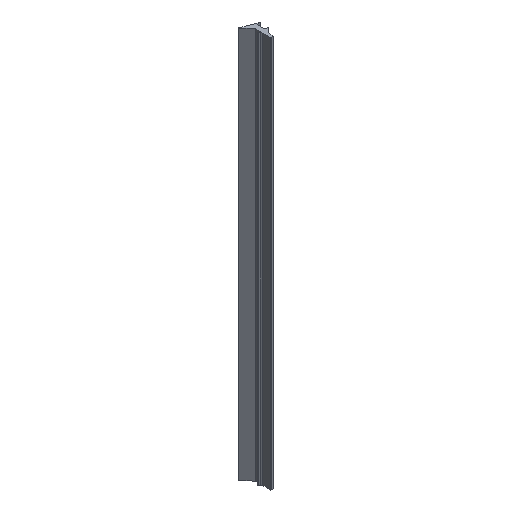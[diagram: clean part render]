
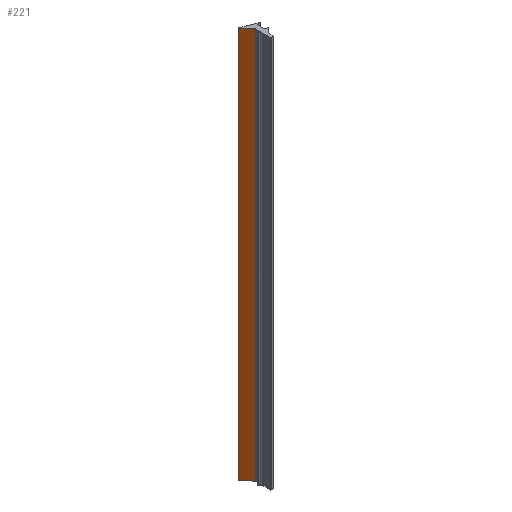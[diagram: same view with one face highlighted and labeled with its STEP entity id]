
A CAD part, isometric view. The second image highlights one B-rep face of the part: STEP entity #221.
In plain terms, the highlighted planar face has unit normal (-0.759, -0.651, 0).
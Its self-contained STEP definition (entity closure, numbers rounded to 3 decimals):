
#14 = CARTESIAN_POINT ( 'NONE',  ( -12.137, -7.355, -500. ) ) ;
#88 = VECTOR ( 'NONE', #231, 1000. ) ;
#130 = ORIENTED_EDGE ( 'NONE', *, *, #344, .T. ) ;
#157 = CARTESIAN_POINT ( 'NONE',  ( -31.506, 15.245, -500. ) ) ;
#158 = ORIENTED_EDGE ( 'NONE', *, *, #292, .T. ) ;
#170 = DIRECTION ( 'NONE',  ( 0., 0., 1. ) ) ;
#186 = EDGE_CURVE ( 'NONE', #424, #752, #532, .T. ) ;
#189 = VERTEX_POINT ( 'NONE', #14 ) ;
#221 = ADVANCED_FACE ( 'NONE', ( #345 ), #406, .T. ) ;
#229 = VERTEX_POINT ( 'NONE', #157 ) ;
#231 = DIRECTION ( 'NONE',  ( 0., 0., 1. ) ) ;
#292 = EDGE_CURVE ( 'NONE', #229, #189, #296, .T. ) ;
#293 = CARTESIAN_POINT ( 'NONE',  ( -31.506, 15.245, -500. ) ) ;
#296 = LINE ( 'NONE', #302, #501 ) ;
#302 = CARTESIAN_POINT ( 'NONE',  ( -31.506, 15.245, -500. ) ) ;
#326 = CARTESIAN_POINT ( 'NONE',  ( -31.506, 15.245, -500. ) ) ;
#330 = DIRECTION ( 'NONE',  ( -0.759, -0.651, 0. ) ) ;
#337 = VECTOR ( 'NONE', #170, 1000. ) ;
#343 = ORIENTED_EDGE ( 'NONE', *, *, #186, .F. ) ;
#344 = EDGE_CURVE ( 'NONE', #189, #752, #542, .T. ) ;
#345 = FACE_OUTER_BOUND ( 'NONE', #428, .T. ) ;
#348 = CARTESIAN_POINT ( 'NONE',  ( -12.137, -7.355, -500. ) ) ;
#359 = DIRECTION ( 'NONE',  ( 0.651, -0.759, 0. ) ) ;
#379 = EDGE_CURVE ( 'NONE', #229, #424, #475, .T. ) ;
#400 = VECTOR ( 'NONE', #527, 1000. ) ;
#406 = PLANE ( 'NONE',  #724 ) ;
#424 = VERTEX_POINT ( 'NONE', #602 ) ;
#428 = EDGE_LOOP ( 'NONE', ( #343, #680, #158, #130 ) ) ;
#475 = LINE ( 'NONE', #293, #88 ) ;
#501 = VECTOR ( 'NONE', #359, 1000. ) ;
#527 = DIRECTION ( 'NONE',  ( 0.651, -0.759, 0. ) ) ;
#532 = LINE ( 'NONE', #643, #400 ) ;
#542 = LINE ( 'NONE', #348, #337 ) ;
#602 = CARTESIAN_POINT ( 'NONE',  ( -31.506, 15.245, 500. ) ) ;
#643 = CARTESIAN_POINT ( 'NONE',  ( -31.506, 15.245, 500. ) ) ;
#680 = ORIENTED_EDGE ( 'NONE', *, *, #379, .F. ) ;
#724 = AXIS2_PLACEMENT_3D ( 'NONE', #326, #330, #753 ) ;
#752 = VERTEX_POINT ( 'NONE', #782 ) ;
#753 = DIRECTION ( 'NONE',  ( 0.651, -0.759, 0. ) ) ;
#782 = CARTESIAN_POINT ( 'NONE',  ( -12.137, -7.355, 500. ) ) ;
